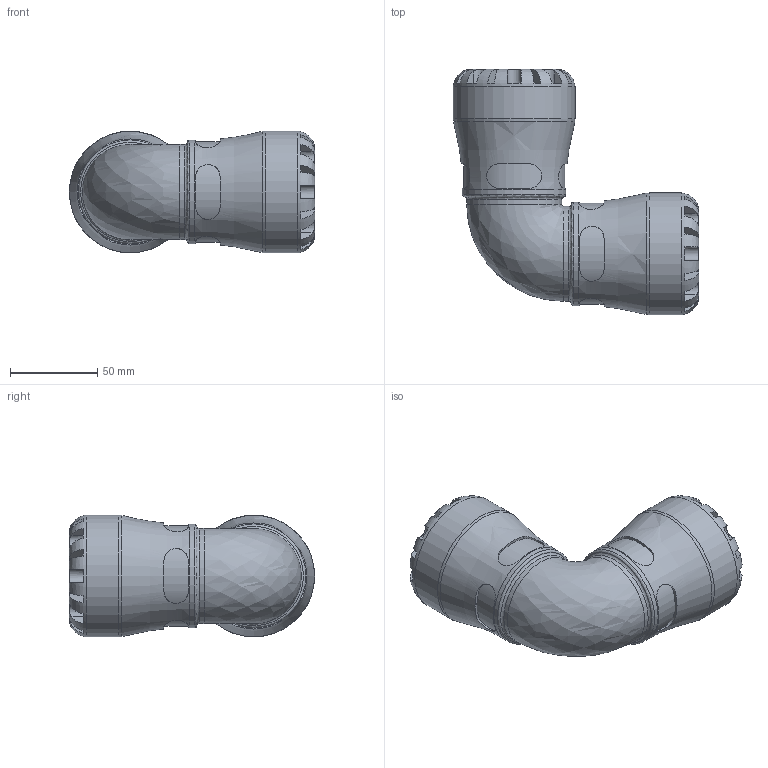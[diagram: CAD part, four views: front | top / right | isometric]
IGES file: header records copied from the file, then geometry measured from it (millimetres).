
Global section: file name: 100500040_190400040.ipt; native system: Autodesk Inventor 2015; preprocessor: unknown; author: KIM; date: 20170122.114433; units: millimetre
Bounding box: 141 x 141 x 70 mm (x, y, z)
Volume: 372377.5 mm3; surface area: 72197.4 mm2
Topology: 1 solids, 1 shells, 196 faces, 513 edges, 327 vertices
Faces by surface type: plane 116, revolution 50, cylinder 30
Full cylindrical faces by diameter (mm): 54.6 x2, 59.5 x2, 70 x2
